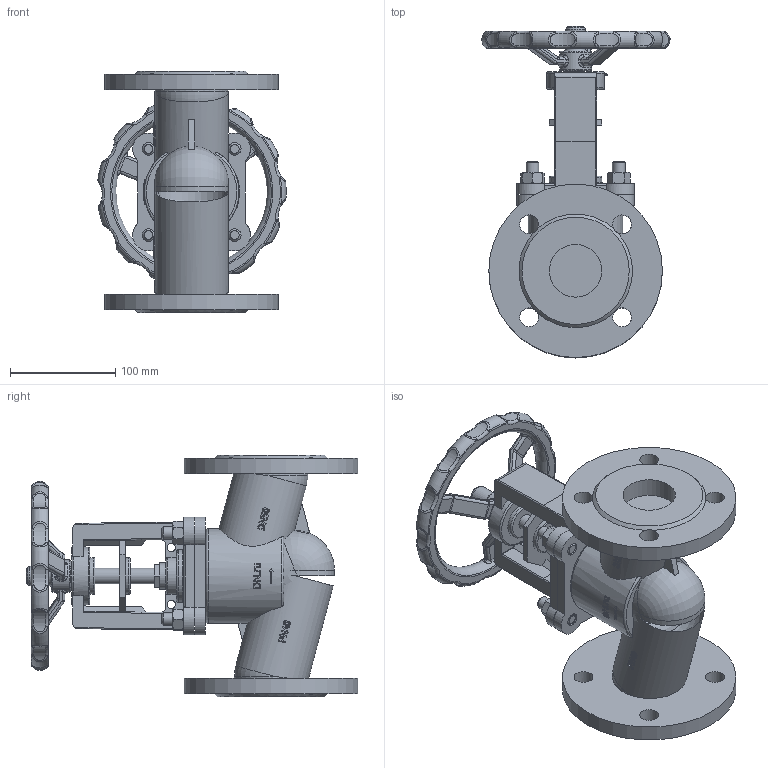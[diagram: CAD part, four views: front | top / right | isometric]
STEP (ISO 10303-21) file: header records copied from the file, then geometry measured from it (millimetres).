
FILE_DESCRIPTION(('STEP AP242'), '1');
FILE_NAME('VSO2130M-F-S 孰囡囗 玎镱痦 DN.ru 捏50 畜40', '2026-04-27T23:36:48', ('DN.ru'), (''), 'C3D Converter', 'C3D Toolkit', '');
FILE_SCHEMA(('AP242_MANAGED_MODEL_BASED_3D_ENGINEERING_MIM_LF { 1 0 10303 442 1 1 4 }'));
Length unit declared in the file: millimetre
Products named in the file (1): VSO2130M-F-S
Bounding box: 179.03 x 315.5 x 230 mm (x, y, z)
Volume: 2135852 mm3; surface area: 314815 mm2
Topology: 1 solids, 1 shells, 950 faces, 2426 edges, 1506 vertices
Faces by surface type: plane 288, extrusion 220, cylinder 187, torus 115, sphere 65, bspline 56, cone 19
Full cylindrical faces by diameter (mm): 0.5 x1, 1 x1, 2 x2, 8 x2, 12 x12, 15 x3, 18 x8, 18.285 x1, 25 x2, 30.475 x1, 35 x2, 50 x2, 55 x1, 70 x2, 75 x1, 90 x1, 165 x2
Entity records: 69407 total; most frequent: CARTESIAN_POINT 40480, ORIENTED_EDGE 4648, DIRECTION 3765, EDGE_CURVE 2324, VERTEX_POINT 1500, AXIS2_PLACEMENT_3D 1361, EDGE_LOOP 1112, VECTOR 1043
